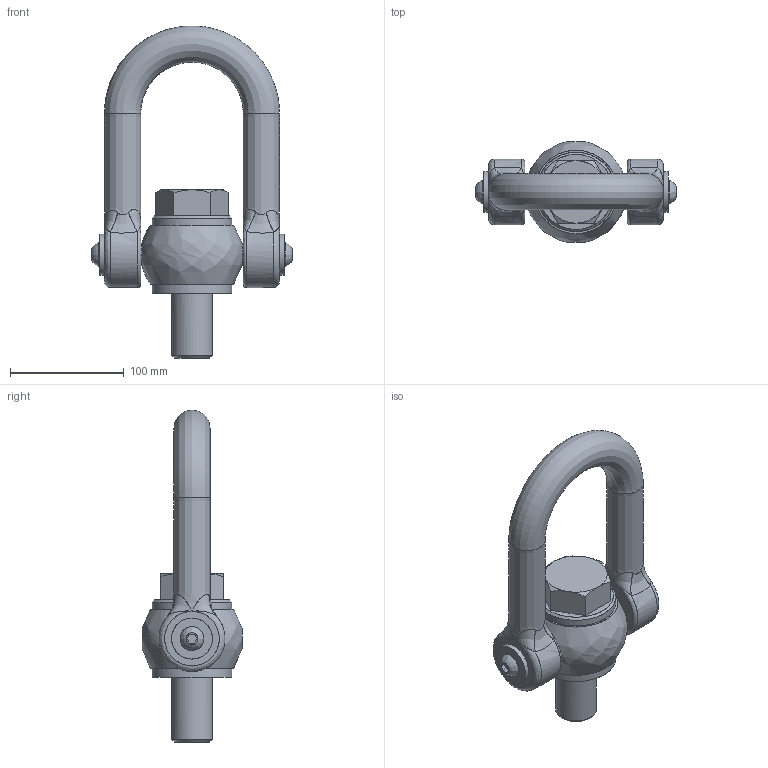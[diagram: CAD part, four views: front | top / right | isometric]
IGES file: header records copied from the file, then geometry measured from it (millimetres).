
Global section: file name: E:\UnigraphicsGraphicData\MISUMI_MOLD-PARTS\NX\3d_sleb36_00882_r00.igs; native system: NX V5.0; preprocessor: UGS NX IGES V5.0; author: MISUMI; date: 20101115.183352; units: millimetre
Bounding box: 176.4 x 88.54 x 292.16 mm (x, y, z)
Surface area: 115481.8 mm2 (no closed solid volume)
Topology: 0 solids, 0 shells, 81 faces, 1460 edges, 1433 vertices
Faces by surface type: bspline 81
